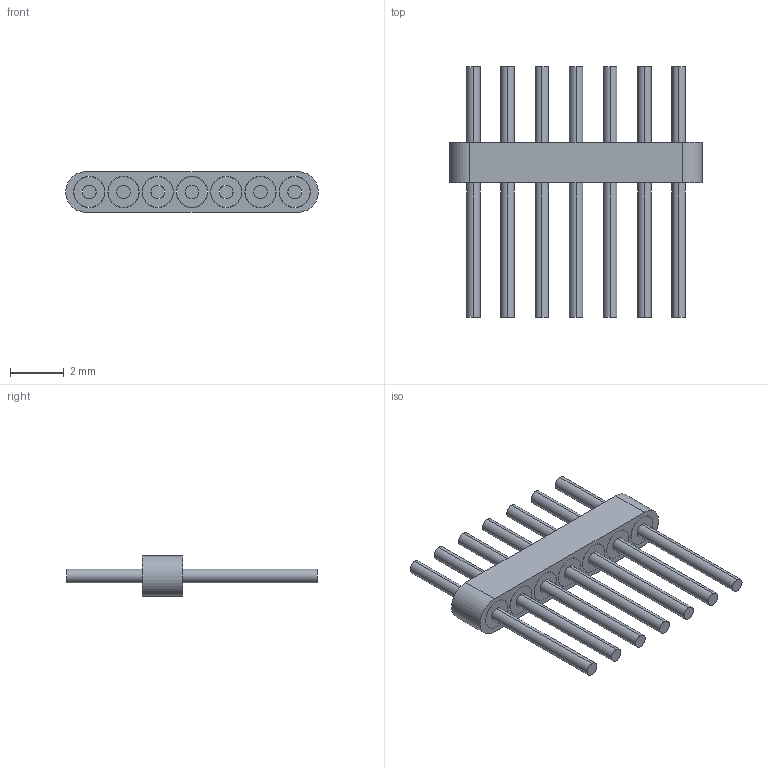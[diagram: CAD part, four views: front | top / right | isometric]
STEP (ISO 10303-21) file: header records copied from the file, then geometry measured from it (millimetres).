
FILE_DESCRIPTION (( 'STEP AP203' ), '1' );
FILE_NAME ('7о.STEP', '2023-11-09T01:43:22', ( 'China' ), ( 'Microsoft' ), 'SwSTEP 2.0', 'SolidWorks 2019', '' );
FILE_SCHEMA (( 'CONFIG_CONTROL_DESIGN' ));
Length unit declared in the file: millimetre
Products named in the file (1): 7о
Bounding box: 9.37 x 9.3 x 1.5 mm (x, y, z)
Volume: 30.8 mm3; surface area: 252.7 mm2
Topology: 15 solids, 15 shells, 90 faces, 180 edges, 120 vertices
Faces by surface type: cylinder 58, plane 32
Entity records: 2505 total; most frequent: DIRECTION 478, CARTESIAN_POINT 391, ORIENTED_EDGE 360, AXIS2_PLACEMENT_3D 207, EDGE_CURVE 180, VERTEX_POINT 120, EDGE_LOOP 118, CIRCLE 116
